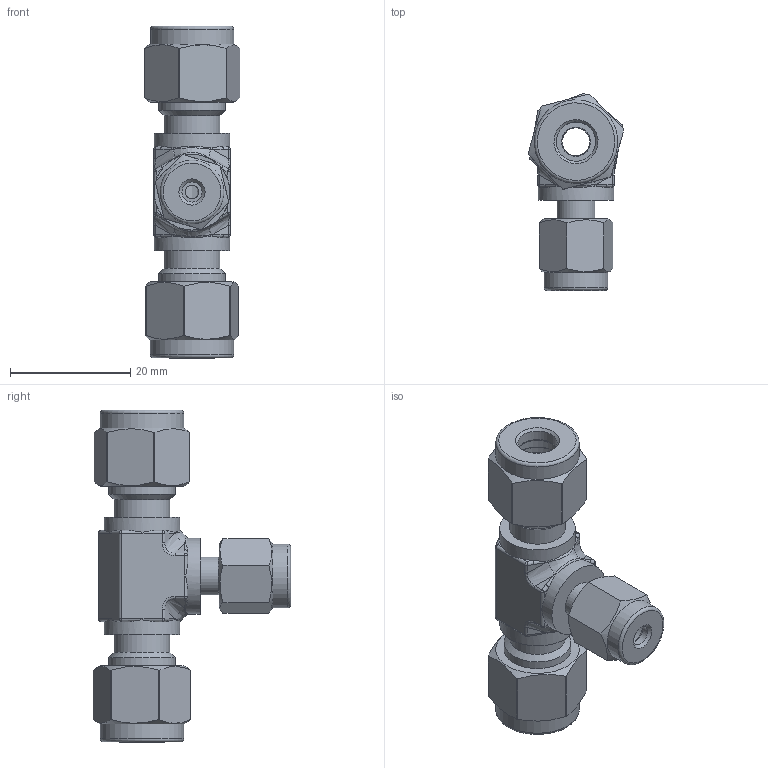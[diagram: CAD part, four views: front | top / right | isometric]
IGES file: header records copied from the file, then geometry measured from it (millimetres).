
Global section: file name: No Iges File Name specified; native system: Autodesk Inventor 2012; preprocessor: AutoDesk Inventor Iges Exporter R2012; author: 硅己绕,,1; organization: 1; date: 20150505.144416; units: millimetre
Bounding box: 15.93 x 32.86 x 55.28 mm (x, y, z)
Volume: 7225.7 mm3; surface area: 6225.4 mm2
Topology: 4 solids, 4 shells, 208 faces, 460 edges, 269 vertices
Faces by surface type: cylinder 64, plane 62, revolution 32, bspline 18, sphere 14, cone 12, torus 6
Full cylindrical faces by diameter (mm): 6.28 x2, 7.94 x1, 9.3 x2, 9.4 x2, 10.6 x1, 11.112 x2, 12.6 x3, 13.9 x2
